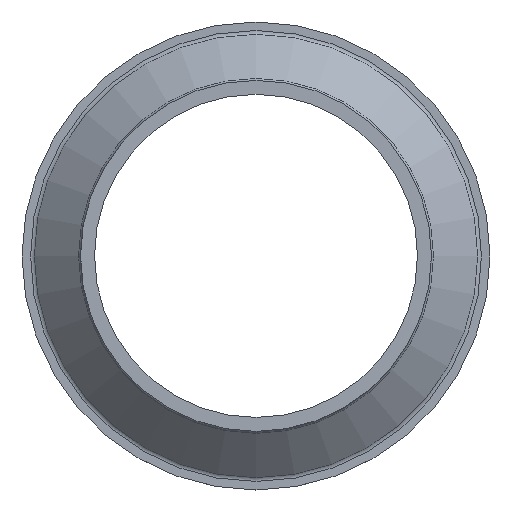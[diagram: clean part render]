
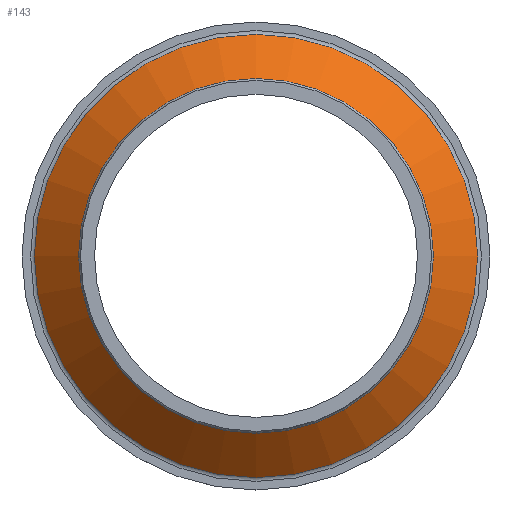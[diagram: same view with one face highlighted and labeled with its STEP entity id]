
A CAD part, top view. The second image highlights one B-rep face of the part: STEP entity #143.
In plain terms, the highlighted conical face has half-angle 47.911 degrees and reference radius 31.08 mm.
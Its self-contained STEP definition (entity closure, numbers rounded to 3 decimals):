
#98=CARTESIAN_POINT('',(38.83,0.,1.558));
#99=VERTEX_POINT('',#98);
#107=CARTESIAN_POINT('',(0.,0.,1.558));
#108=DIRECTION('',(1.,0.,0.));
#109=DIRECTION('',(0.,0.,1.));
#110=AXIS2_PLACEMENT_3D('',#107,#109,#108);
#111=CIRCLE('',#110,38.83);
#112=EDGE_CURVE('',#99,#99,#111,.T.);
#119=CARTESIAN_POINT('',(0.,0.,8.558));
#120=DIRECTION('',(1.,0.,0.));
#121=DIRECTION('',(0.,0.,-1.));
#122=AXIS2_PLACEMENT_3D('',#119,#121,#120);
#123=CONICAL_SURFACE('',#122,31.08,0.836);
#124=CARTESIAN_POINT('',(31.08,0.,8.558));
#125=VERTEX_POINT('',#124);
#126=CARTESIAN_POINT('',(38.83,0.,1.558));
#127=DIRECTION('',(-0.742,0.,0.67));
#128=VECTOR('',#127,10.443);
#129=LINE('',#126,#128);
#130=EDGE_CURVE('',#99,#125,#129,.T.);
#131=ORIENTED_EDGE('E3',*,*,#130,.T.);
#132=CARTESIAN_POINT('',(0.,0.,8.558));
#133=DIRECTION('',(1.,0.,-0.));
#134=DIRECTION('',(0.,-0.,1.));
#135=AXIS2_PLACEMENT_3D('',#132,#134,#133);
#136=CIRCLE('',#135,31.08);
#137=EDGE_CURVE('',#125,#125,#136,.T.);
#138=ORIENTED_EDGE('E12',*,*,#137,.T.);
#139=ORIENTED_EDGE('E12',*,*,#130,.F.);
#140=ORIENTED_EDGE('E12',*,*,#112,.F.);
#141=EDGE_LOOP('',(#131,#138,#139,#140));
#142=FACE_OUTER_BOUND('',#141,.F.);
#143=ADVANCED_FACE('F5',(#142),#123,.T.);
